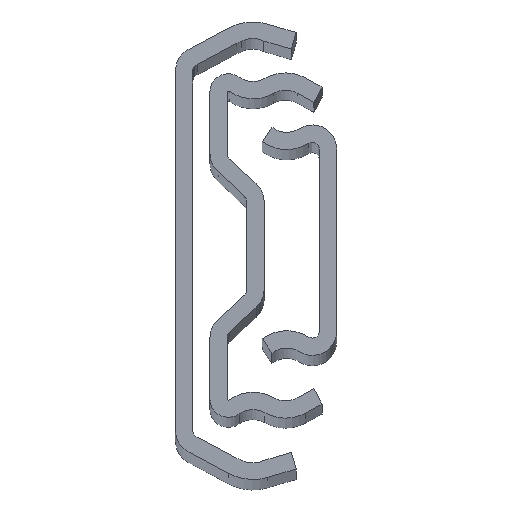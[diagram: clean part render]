
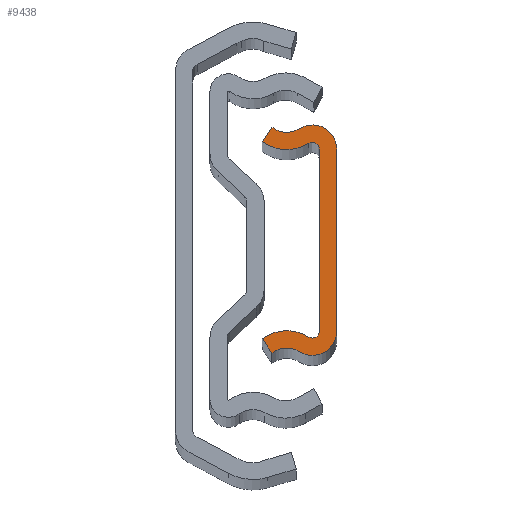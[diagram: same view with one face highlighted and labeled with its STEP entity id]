
A CAD part, top view. The second image highlights one B-rep face of the part: STEP entity #9438.
In plain terms, the highlighted planar face has unit normal (0, 0, 1).
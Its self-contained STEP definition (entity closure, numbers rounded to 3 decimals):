
#656 = VERTEX_POINT ( 'NONE', #18820 ) ;
#1130 = CARTESIAN_POINT ( 'NONE',  ( 1.506, 10.55, 0. ) ) ;
#1265 = DIRECTION ( 'NONE',  ( -1., 0., 0. ) ) ;
#1589 = EDGE_CURVE ( 'NONE', #32217, #16366, #20838, .T. ) ;
#1916 = DIRECTION ( 'NONE',  ( 1., 0., 0. ) ) ;
#2308 = CARTESIAN_POINT ( 'NONE',  ( -1.47, -15.294, 0. ) ) ;
#2511 = ORIENTED_EDGE ( 'NONE', *, *, #37103, .T. ) ;
#2991 = LINE ( 'NONE', #29394, #4429 ) ;
#3007 = AXIS2_PLACEMENT_3D ( 'NONE', #7603, #34631, #7354 ) ;
#3286 = EDGE_CURVE ( 'NONE', #24870, #14907, #18880, .T. ) ;
#3303 = AXIS2_PLACEMENT_3D ( 'NONE', #15858, #34356, #9841 ) ;
#4429 = VECTOR ( 'NONE', #5036, 1000. ) ;
#4466 = ORIENTED_EDGE ( 'NONE', *, *, #9091, .T. ) ;
#5036 = DIRECTION ( 'NONE',  ( 0.555, -0.832, 0. ) ) ;
#5636 = CARTESIAN_POINT ( 'NONE',  ( 2.306, -10.55, 0. ) ) ;
#5839 = LINE ( 'NONE', #31871, #37379 ) ;
#6842 = CARTESIAN_POINT ( 'NONE',  ( -4.306, -11.422, 0. ) ) ;
#7354 = DIRECTION ( 'NONE',  ( -1., 0., 0. ) ) ;
#7603 = CARTESIAN_POINT ( 'NONE',  ( 1.506, 10.55, 0. ) ) ;
#7815 = AXIS2_PLACEMENT_3D ( 'NONE', #38618, #10891, #1916 ) ;
#7972 = CARTESIAN_POINT ( 'NONE',  ( 4.306, 10.55, 0. ) ) ;
#8159 = VERTEX_POINT ( 'NONE', #14616 ) ;
#8197 = DIRECTION ( 'NONE',  ( 0., 0., 1. ) ) ;
#8492 = EDGE_CURVE ( 'NONE', #31670, #10141, #5839, .T. ) ;
#9091 = EDGE_CURVE ( 'NONE', #20642, #8159, #2991, .T. ) ;
#9438 = ADVANCED_FACE ( 'Face2', ( #22455 ), #22127, .T. ) ;
#9841 = DIRECTION ( 'NONE',  ( 1., 0., 0. ) ) ;
#10141 = VERTEX_POINT ( 'NONE', #28255 ) ;
#10456 = CARTESIAN_POINT ( 'NONE',  ( 1.506, -10.55, 0. ) ) ;
#10460 = AXIS2_PLACEMENT_3D ( 'NONE', #16842, #22594, #35341 ) ;
#10525 = ORIENTED_EDGE ( 'NONE', *, *, #11045, .T. ) ;
#10891 = DIRECTION ( 'NONE',  ( 0., 0., 1. ) ) ;
#10970 = CIRCLE ( 'NONE', #14021, 2.8 ) ;
#11045 = EDGE_CURVE ( 'NONE', #16501, #31670, #25333, .T. ) ;
#11119 = CARTESIAN_POINT ( 'NONE',  ( 2.306, -10.55, 0. ) ) ;
#11362 = DIRECTION ( 'NONE',  ( 0., -1., 0. ) ) ;
#11691 = EDGE_CURVE ( 'NONE', #14907, #16501, #10970, .T. ) ;
#11802 = ORIENTED_EDGE ( 'NONE', *, *, #17520, .T. ) ;
#11894 = CARTESIAN_POINT ( 'NONE',  ( -1.47, 15.294, 0. ) ) ;
#12358 = EDGE_CURVE ( 'NONE', #10141, #656, #24289, .T. ) ;
#12589 = ORIENTED_EDGE ( 'NONE', *, *, #11691, .T. ) ;
#14021 = AXIS2_PLACEMENT_3D ( 'NONE', #1130, #31655, #1265 ) ;
#14043 = CARTESIAN_POINT ( 'NONE',  ( 0.018, -12.922, 0. ) ) ;
#14379 = ORIENTED_EDGE ( 'NONE', *, *, #3286, .T. ) ;
#14552 = AXIS2_PLACEMENT_3D ( 'NONE', #11894, #8197, #17136 ) ;
#14604 = VECTOR ( 'NONE', #11362, 1000. ) ;
#14616 = CARTESIAN_POINT ( 'NONE',  ( -3.194, -13.089, 0. ) ) ;
#14907 = VERTEX_POINT ( 'NONE', #7972 ) ;
#15603 = AXIS2_PLACEMENT_3D ( 'NONE', #2308, #17571, #39270 ) ;
#15858 = CARTESIAN_POINT ( 'NONE',  ( -1.47, -15.294, 0. ) ) ;
#16229 = CARTESIAN_POINT ( 'NONE',  ( -3.194, 13.089, 0. ) ) ;
#16366 = VERTEX_POINT ( 'NONE', #5636 ) ;
#16501 = VERTEX_POINT ( 'NONE', #34312 ) ;
#16842 = CARTESIAN_POINT ( 'NONE',  ( 1.506, -10.55, 0. ) ) ;
#16862 = AXIS2_PLACEMENT_3D ( 'NONE', #34011, #36808, #37339 ) ;
#17136 = DIRECTION ( 'NONE',  ( -1., 0., 0. ) ) ;
#17520 = EDGE_CURVE ( 'NONE', #656, #32217, #35515, .T. ) ;
#17571 = DIRECTION ( 'NONE',  ( 0., 0., -1. ) ) ;
#17582 = EDGE_CURVE ( 'NONE', #21893, #20642, #30675, .T. ) ;
#17935 = DIRECTION ( 'NONE',  ( 0., 1., 0. ) ) ;
#18404 = ORIENTED_EDGE ( 'NONE', *, *, #8492, .T. ) ;
#18542 = ORIENTED_EDGE ( 'NONE', *, *, #29347, .T. ) ;
#18820 = CARTESIAN_POINT ( 'NONE',  ( 1.081, 11.228, 0. ) ) ;
#18880 = LINE ( 'NONE', #20883, #24111 ) ;
#19759 = ORIENTED_EDGE ( 'NONE', *, *, #17582, .T. ) ;
#20642 = VERTEX_POINT ( 'NONE', #6842 ) ;
#20838 = LINE ( 'NONE', #11119, #14604 ) ;
#20883 = CARTESIAN_POINT ( 'NONE',  ( 4.306, -10.55, 0. ) ) ;
#21461 = VERTEX_POINT ( 'NONE', #14043 ) ;
#21893 = VERTEX_POINT ( 'NONE', #31964 ) ;
#22127 = PLANE ( 'NONE',  #3303 ) ;
#22455 = FACE_OUTER_BOUND ( 'NONE', #36152, .T. ) ;
#22594 = DIRECTION ( 'NONE',  ( 0., 0., -1. ) ) ;
#22876 = DIRECTION ( 'NONE',  ( 0., 0., 1. ) ) ;
#24111 = VECTOR ( 'NONE', #17935, 1000. ) ;
#24289 = CIRCLE ( 'NONE', #14552, 4.8 ) ;
#24870 = VERTEX_POINT ( 'NONE', #31414 ) ;
#25333 = CIRCLE ( 'NONE', #16862, 2.8 ) ;
#27600 = ORIENTED_EDGE ( 'NONE', *, *, #28716, .T. ) ;
#28255 = CARTESIAN_POINT ( 'NONE',  ( -4.306, 11.422, 0. ) ) ;
#28642 = CARTESIAN_POINT ( 'NONE',  ( 2.306, 10.55, 0. ) ) ;
#28716 = EDGE_CURVE ( 'NONE', #16366, #21893, #32037, .T. ) ;
#29347 = EDGE_CURVE ( 'NONE', #8159, #21461, #31032, .T. ) ;
#29394 = CARTESIAN_POINT ( 'NONE',  ( -4.306, -11.422, 0. ) ) ;
#30675 = CIRCLE ( 'NONE', #7815, 4.8 ) ;
#31032 = CIRCLE ( 'NONE', #15603, 2.8 ) ;
#31414 = CARTESIAN_POINT ( 'NONE',  ( 4.306, -10.55, 0. ) ) ;
#31655 = DIRECTION ( 'NONE',  ( 0., 0., 1. ) ) ;
#31670 = VERTEX_POINT ( 'NONE', #16229 ) ;
#31871 = CARTESIAN_POINT ( 'NONE',  ( -4.306, 11.422, 0. ) ) ;
#31964 = CARTESIAN_POINT ( 'NONE',  ( 1.081, -11.228, 0. ) ) ;
#32037 = CIRCLE ( 'NONE', #10460, 0.8 ) ;
#32217 = VERTEX_POINT ( 'NONE', #28642 ) ;
#34011 = CARTESIAN_POINT ( 'NONE',  ( -1.47, 15.294, 0. ) ) ;
#34205 = ORIENTED_EDGE ( 'NONE', *, *, #1589, .T. ) ;
#34312 = CARTESIAN_POINT ( 'NONE',  ( 0.018, 12.922, 0. ) ) ;
#34356 = DIRECTION ( 'NONE',  ( 0., 0., 1. ) ) ;
#34515 = AXIS2_PLACEMENT_3D ( 'NONE', #10456, #22876, #37909 ) ;
#34631 = DIRECTION ( 'NONE',  ( 0., 0., -1. ) ) ;
#35341 = DIRECTION ( 'NONE',  ( 1., 0., 0. ) ) ;
#35362 = DIRECTION ( 'NONE',  ( -0.555, -0.832, 0. ) ) ;
#35515 = CIRCLE ( 'NONE', #3007, 0.8 ) ;
#35569 = CIRCLE ( 'NONE', #34515, 2.8 ) ;
#35622 = ORIENTED_EDGE ( 'NONE', *, *, #12358, .T. ) ;
#36152 = EDGE_LOOP ( 'NONE', ( #18542, #2511, #14379, #12589, #10525, #18404, #35622, #11802, #34205, #27600, #19759, #4466 ) ) ;
#36808 = DIRECTION ( 'NONE',  ( 0., 0., -1. ) ) ;
#37103 = EDGE_CURVE ( 'NONE', #21461, #24870, #35569, .T. ) ;
#37339 = DIRECTION ( 'NONE',  ( -1., 0., 0. ) ) ;
#37379 = VECTOR ( 'NONE', #35362, 1000. ) ;
#37909 = DIRECTION ( 'NONE',  ( 1., 0., 0. ) ) ;
#38618 = CARTESIAN_POINT ( 'NONE',  ( -1.47, -15.294, 0. ) ) ;
#39270 = DIRECTION ( 'NONE',  ( 1., 0., 0. ) ) ;
